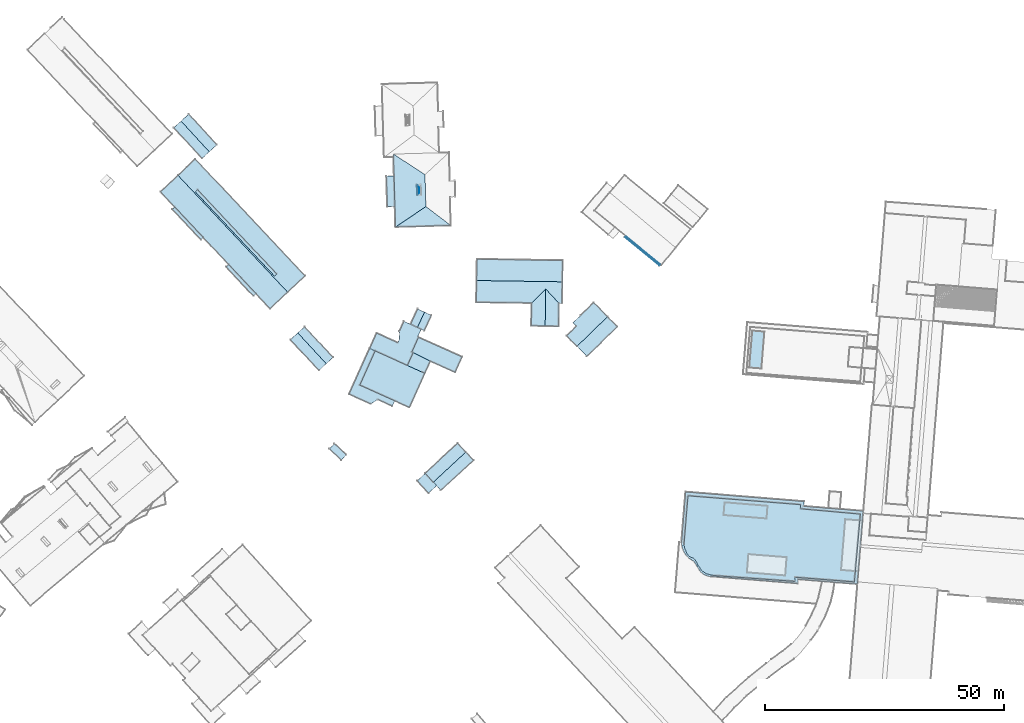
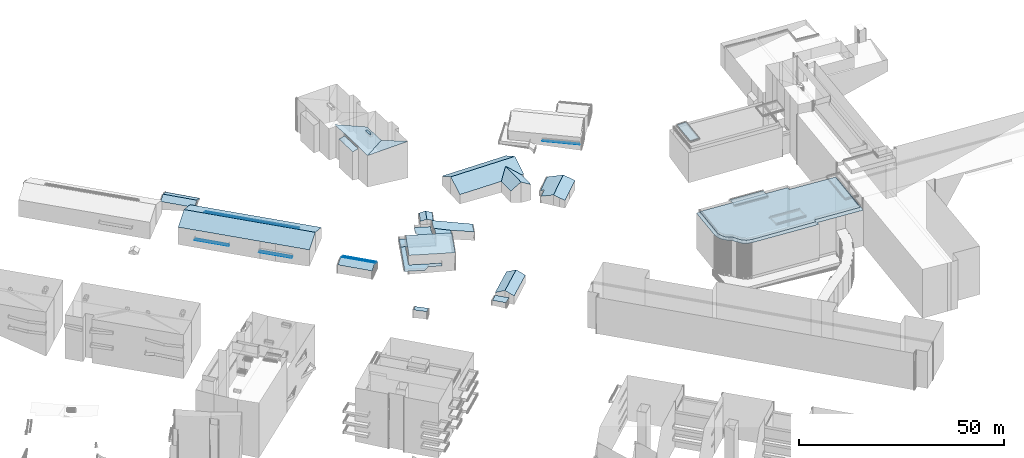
# Not in any storey, part 132 of 136: 68 roofs.
"""IFC2X3 building model written with IfcOpenShell, lengths in metres."""

import ifcopenshell
import ifcopenshell.guid

model = None  # the IFC model being written
_history = None  # IfcOwnerHistory: only IFC2X3 demands one
_inside = {}  # id of a spatial element -> (the spatial element, [elements in it])
_under = {}  # id of a project, library or spatial element -> (it, [spatial elements below it])
_declared = {}  # id of a project -> (the project, [libraries it declares])
_typed = {}  # id of a type object -> (the type object, [elements of that type])
_made_of = {}  # id of a material, layer set ... -> (it, [elements and type objects made of it])


def new_model(schema):
    """Start an empty IFC model of exactly this schema.

    Asked for "IFC4X3", IfcOpenShell would pick the latest addendum, in which some entities
    have other attributes; the version numbers below select the first issue.
    IFC2X3 requires an IfcOwnerHistory on every rooted entity: one is made here for all.
    """
    global model, _history
    if schema == "IFC4X3":
        model = ifcopenshell.file(schema_version=(4, 3, 0, 0))
    else:
        model = ifcopenshell.file(schema=schema)
    _inside.clear()
    _under.clear()
    _declared.clear()
    _typed.clear()
    _made_of.clear()
    _history = None
    if model.schema == "IFC2X3":
        org = make("IfcOrganization", Name="unknown")
        user = make(
            "IfcPersonAndOrganization",
            ThePerson=make("IfcPerson", FamilyName="unknown"),
            TheOrganization=org,
        )
        app = make(
            "IfcApplication",
            ApplicationDeveloper=org,
            Version="unknown",
            ApplicationFullName="unknown",
            ApplicationIdentifier="unknown",
        )
        _history = make(
            "IfcOwnerHistory",
            OwningUser=user,
            OwningApplication=app,
            ChangeAction="ADDED",
            CreationDate=0,
        )
    return model


def make(cls, **values):
    """One entity of the class cls with the attributes given. An attribute that is None is left unset."""
    return model.create_entity(
        cls, **{name: value for name, value in values.items() if value is not None}
    )


def entity(cls, *values):
    """Any entity or typed value of the class cls, its attributes in the order of the schema. None: left unset."""
    e = model.create_entity(cls)
    for i, value in enumerate(values):
        if value is not None:
            e[i] = value
    return e


def rooted(cls, **values):
    """An entity with a GlobalId (a new one), such as an element, a storey or a relation."""
    return make(cls, GlobalId=ifcopenshell.guid.new(), OwnerHistory=_history, **values)


def si_unit(unit_type, name, prefix=None):
    """IfcSIUnit, for example si_unit("LENGTHUNIT", "METRE", prefix="MILLI")."""
    return make("IfcSIUnit", UnitType=unit_type, Prefix=prefix, Name=name)


def converted_unit(unit_type, name, factor, base, dimensions=None, offset=None):
    """IfcConversionBasedUnit, such as the inch: factor (a typed value) times the base unit."""
    return make(
        "IfcConversionBasedUnit"
        if offset is None
        else "IfcConversionBasedUnitWithOffset",
        ConversionOffset=offset,
        Dimensions=None
        if dimensions is None
        else entity("IfcDimensionalExponents", *dimensions),
        UnitType=unit_type,
        Name=name,
        ConversionFactor=make(
            "IfcMeasureWithUnit", ValueComponent=factor, UnitComponent=base
        ),
    )


def assignment(units):
    """IfcUnitAssignment: the units of a project."""
    return None if units is None else make("IfcUnitAssignment", Units=units)


def point(xyz):
    """IfcCartesianPoint."""
    return None if xyz is None else make("IfcCartesianPoint", Coordinates=xyz)


def direction(xyz):
    """IfcDirection."""
    return None if xyz is None else make("IfcDirection", DirectionRatios=xyz)


def frame(location, z_axis=None, x_axis=None):
    """IfcAxis2Placement3D, a coordinate frame: its origin and axes. An axis left out is left unset."""
    return make(
        "IfcAxis2Placement3D",
        Location=point(location),
        Axis=direction(z_axis),
        RefDirection=direction(x_axis),
    )


def origin():
    """The frame at (0, 0, 0) with its axes left unset."""
    return frame((0.0, 0.0, 0.0))


def place(relative_to, where):
    """IfcLocalPlacement: puts the frame where relative to a parent placement (None: the world)."""
    return make(
        "IfcLocalPlacement", PlacementRelTo=relative_to, RelativePlacement=where
    )


def context(
    kind, dimensions, precision=None, world=None, true_north=None, identifier=None
):
    """IfcGeometricRepresentationContext, for example the 3D "Model" context."""
    return make(
        "IfcGeometricRepresentationContext",
        ContextIdentifier=identifier,
        ContextType=kind,
        CoordinateSpaceDimension=dimensions,
        Precision=precision,
        WorldCoordinateSystem=world,
        TrueNorth=true_north,
    )


def subcontext(parent, identifier, kind, view, scale=None):
    """IfcGeometricRepresentationSubContext, for example "Body" below "Model"."""
    return make(
        "IfcGeometricRepresentationSubContext",
        ContextIdentifier=identifier,
        ContextType=kind,
        ParentContext=parent,
        TargetScale=scale,
        TargetView=view,
    )


def project(units=None, contexts=None):
    """IfcProject with its units and contexts."""
    return rooted(
        "IfcProject",
        Name="project",
        RepresentationContexts=contexts,
        UnitsInContext=assignment(units),
    )


def spatial(cls, under=None, at=None, **own):
    """A site, building, storey or space (cls), placed at a placement, below another one or the project."""
    s = rooted(cls, ObjectPlacement=at, **own)
    if under is not None:
        _under.setdefault(under.id(), (under, []))[1].append(s)
    return s


def faces_of(points, faces, orient=None, outer=None):
    """IfcFace entities. A face is a list of loops; a loop is a list of indices into points, from 0.

    orient and outer hold one flag for each loop. By default every Orientation is true, the
    first loop of a face is its IfcFaceOuterBound and the others are IfcFaceBound.
    """
    made = []
    for i, loops in enumerate(faces):
        bounds = []
        for j, loop in enumerate(loops):
            is_outer = j == 0 if outer is None else outer[i][j]
            bounds.append(
                make(
                    "IfcFaceOuterBound" if is_outer else "IfcFaceBound",
                    Bound=make("IfcPolyLoop", Polygon=[points[k] for k in loop]),
                    Orientation=True if orient is None else orient[i][j],
                )
            )
        made.append(make("IfcFace", Bounds=bounds))
    return made


def face_set(faces, orient=None, outer=None):
    """The faces of one IfcConnectedFaceSet. surface_model builds it on its shared points."""
    return ("IfcConnectedFaceSet", faces, orient, outer)


def surface_model(cls, points, shells):
    """IfcFaceBasedSurfaceModel or IfcShellBasedSurfaceModel (cls): surfaces that need not close."""
    shared = [point(p) for p in points]
    made = [make(c, CfsFaces=faces_of(shared, fs, o, b)) for c, fs, o, b in shells]
    if cls == "IfcFaceBasedSurfaceModel":
        return make(cls, FbsmFaces=made)
    return make(cls, SbsmBoundary=made)


def shape(context_of_items, identifier, shape_type, items):
    """IfcShapeRepresentation: the items that make up one representation, for example the "Body"."""
    return make(
        "IfcShapeRepresentation",
        ContextOfItems=context_of_items,
        RepresentationIdentifier=identifier,
        RepresentationType=shape_type,
        Items=items,
    )


def made_of(thing, what):
    """Note that an element or type object is made of a material, layer set ...; save() writes the relation."""
    if what is not None:
        _made_of.setdefault(what.id(), (what, []))[1].append(thing)
    return thing


def element(
    cls,
    number,
    at=None,
    inside=None,
    cuts=None,
    type_object=None,
    material=None,
    context=None,
    identifier="Body",
    shape_type=None,
    held_by="IfcProductDefinitionShape",
    body=None,
    shapes=None,
    **own,
):
    """One element of the class cls, such as IfcWall. Its Tag is "e" and its number.

    at: its placement. inside: the storey or other place that contains it. cuts: it is an
    opening in that element (IfcRelVoidsElement). A single representation is given by context,
    identifier, shape_type and body (its items); several are given by shapes. held_by: the class
    of the entity that holds the representations. save() writes the other relations.
    """
    e = rooted(cls, Tag="e%d" % number, ObjectPlacement=at, **own)
    if body is not None:
        shapes = [shape(context, identifier, shape_type, body)]
    if shapes is not None:
        e.Representation = make(held_by, Representations=shapes)
    if inside is not None:
        _inside.setdefault(inside.id(), (inside, []))[1].append(e)
    if cuts is not None:
        rooted(
            "IfcRelVoidsElement", RelatingBuildingElement=cuts, RelatedOpeningElement=e
        )
    if type_object is not None:
        _typed.setdefault(type_object.id(), (type_object, []))[1].append(e)
    return made_of(e, material)


def aggregate(whole, parts):
    """IfcRelAggregates: a whole, such as a stair, and the parts it consists of."""
    return rooted("IfcRelAggregates", RelatingObject=whole, RelatedObjects=parts)


def save(model, path):
    """Write the relations noted so far, then the file.

    IfcRelAggregates (storeys below a building ...), IfcRelContainedInSpatialStructure (elements
    in a storey), IfcRelDefinesByType, IfcRelAssociatesMaterial and IfcRelDeclares: one each for
    every whole, place, type object, material and project.
    """
    for whole, parts in _under.values():
        aggregate(whole, parts)
    for where, things in _inside.values():
        rooted(
            "IfcRelContainedInSpatialStructure",
            RelatedElements=things,
            RelatingStructure=where,
        )
    for kind, things in _typed.values():
        rooted("IfcRelDefinesByType", RelatedObjects=things, RelatingType=kind)
    for what, things in _made_of.values():
        rooted("IfcRelAssociatesMaterial", RelatedObjects=things, RelatingMaterial=what)
    for by, libraries in _declared.values():
        rooted("IfcRelDeclares", RelatingContext=by, RelatedDefinitions=libraries)
    model.write(path)


model = new_model("IFC2X3")

# Units and contexts
model_context = context("Model", 3, precision=1e-05, world=origin())
body_context = subcontext(model_context, "Body", "Model", "MODEL_VIEW")
ifc_project = project(units=[converted_unit("PLANEANGLEUNIT", "DEGREE", entity("IfcRatioMeasure", 0.0174532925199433), si_unit("PLANEANGLEUNIT", "RADIAN"), dimensions=[0, 0, 0, 0, 0, 0, 0]), si_unit("AREAUNIT", "SQUARE_METRE"), si_unit("LENGTHUNIT", "METRE")], contexts=[model_context])

# Site, building
site_placement = place(None, origin())
site = spatial("IfcSite", under=ifc_project, at=site_placement, Name="_site", CompositionType="ELEMENT")
building_1_placement = place(site_placement, origin())
building_1 = spatial("IfcBuilding", under=site, at=building_1_placement, Name="_building", CompositionType="ELEMENT")

# Roofs
for number, where, name in (
    (1, (0.0, 0.0, 0.0), "Roof"),
    (2, (0.0, 0.0, 0.0), "Roof"),
):
    element("IfcRoof", number, at=place(building_1_placement, frame(where)), inside=building_1, Name=name, ShapeType="NOTDEFINED", context=body_context, shape_type="SurfaceModel", body=[
        surface_model("IfcFaceBasedSurfaceModel", [(119.99, 104.46, 45.55), (121.43, 103.79, 45.01), (122.92, 107.0, 45.01), (121.48, 107.67, 45.55)], [face_set([[[0, 1, 2, 3]]])]),
    ])
for number, where, name in (
    (3, (0.0, 0.0, 0.0), "Roof"),
    (4, (0.0, 0.0, 0.0), "Roof"),
):
    element("IfcRoof", number, at=place(building_1_placement, frame(where)), inside=building_1, Name=name, ShapeType="NOTDEFINED", context=body_context, shape_type="SurfaceModel", body=[
        surface_model("IfcFaceBasedSurfaceModel", [(121.48, 107.67, 45.55), (120.06, 108.33, 45.01), (118.57, 105.12, 45.01), (119.99, 104.46, 45.55)], [face_set([[[0, 1, 2, 3]]])]),
    ])

# Building
building_2_placement = place(site_placement, origin())
building_2 = spatial("IfcBuilding", under=site, at=building_2_placement, Name="_building", CompositionType="ELEMENT")

# Roofs
for number, where, name in (
    (5, (0.0, 0.0, 0.0), "Roof"),
    (6, (0.0, 0.0, 0.0), "Roof"),
):
    element("IfcRoof", number, at=place(building_2_placement, frame(where)), inside=building_2, Name=name, ShapeType="NOTDEFINED", context=body_context, shape_type="SurfaceModel", body=[
        surface_model("IfcFaceBasedSurfaceModel", [(101.63, 79.12, 40.36), (104.11, 76.79, 40.36), (105.14, 77.88, 40.36), (102.67, 80.22, 40.36)], [face_set([[[0, 1, 2, 3]]])]),
    ])

# Building
building_3_placement = place(site_placement, origin())
building_3 = spatial("IfcBuilding", under=site, at=building_3_placement, Name="_building", CompositionType="ELEMENT")

# Roofs
roof_1_placement = place(building_3_placement, origin())
element("IfcRoof", 7, at=roof_1_placement, inside=building_3, Name="Roof", ShapeType="NOTDEFINED", context=body_context, shape_type="SurfaceModel", body=[
    surface_model("IfcFaceBasedSurfaceModel", [(115.42, 125.43, 53.37), (126.98, 125.76, 53.37), (121.77, 129.72, 53.1)], [face_set([[[0, 1, 2]]])]),
])
roof_2_placement = place(building_3_placement, origin())
element("IfcRoof", 8, at=roof_2_placement, inside=building_3, Name="Roof", ShapeType="NOTDEFINED", context=body_context, shape_type="SurfaceModel", body=[
    surface_model("IfcFaceBasedSurfaceModel", [(121.58, 136.39, 53.1), (114.99, 140.68, 53.5), (115.0, 140.07, 53.5), (115.12, 136.14, 53.46), (115.3, 129.75, 53.41), (115.42, 125.43, 53.37), (121.77, 129.72, 53.1)], [face_set([[[0, 1, 2, 3, 4, 5, 6]]])]),
])
roof_3_placement = place(building_3_placement, origin())
element("IfcRoof", 9, at=roof_3_placement, inside=building_3, Name="Roof", ShapeType="NOTDEFINED", context=body_context, shape_type="SurfaceModel", body=[
    surface_model("IfcFaceBasedSurfaceModel", [(115.3, 129.75, 52.85), (115.12, 136.14, 52.85), (113.53, 136.09, 52.47), (113.71, 129.71, 52.47)], [face_set([[[0, 1, 2, 3]]])]),
])
roof_4_placement = place(building_3_placement, origin())
element("IfcRoof", 10, at=roof_4_placement, inside=building_3, Name="Roof", ShapeType="NOTDEFINED", context=body_context, shape_type="SurfaceModel", body=[
    surface_model("IfcFaceBasedSurfaceModel", [(121.58, 136.39, 53.1), (114.99, 140.68, 53.5), (115.0, 140.07, 53.5), (115.12, 136.14, 53.46), (115.3, 129.75, 53.41), (115.42, 125.43, 53.37), (121.77, 129.72, 53.1)], [face_set([[[0, 1, 2, 3, 4, 5, 6]]])]),
])
for number, where, name in (
    (11, (0.0, 0.0, 0.0), "Roof"),
    (12, (0.0, 0.0, 0.0), "Roof"),
):
    element("IfcRoof", number, at=place(building_3_placement, frame(where)), inside=building_3, Name=name, ShapeType="NOTDEFINED", context=body_context, shape_type="SurfaceModel", body=[
        surface_model("IfcFaceBasedSurfaceModel", [(119.89, 134.271, 53.87), (119.96, 132.05, 53.87), (120.37, 132.41, 54.14), (120.32, 134.01, 54.14)], [face_set([[[0, 1, 2, 3]]])]),
    ])
roof_5_placement = place(building_3_placement, origin())
element("IfcRoof", 13, at=roof_5_placement, inside=building_3, Name="Roof", ShapeType="NOTDEFINED", context=body_context, shape_type="SurfaceModel", body=[
    surface_model("IfcFaceBasedSurfaceModel", [(115.3, 129.75, 52.85), (115.12, 136.14, 52.85), (113.53, 136.09, 52.47), (113.71, 129.71, 52.47)], [face_set([[[0, 1, 2, 3]]])]),
])
roof_6_placement = place(building_3_placement, origin())
element("IfcRoof", 14, at=roof_6_placement, inside=building_3, Name="Roof", ShapeType="NOTDEFINED", context=body_context, shape_type="SurfaceModel", body=[
    surface_model("IfcFaceBasedSurfaceModel", [(115.42, 125.43, 53.37), (126.98, 125.76, 53.37), (121.77, 129.72, 53.1)], [face_set([[[0, 1, 2]]])]),
])

# Building
building_4_placement = place(site_placement, origin())
building_4 = spatial("IfcBuilding", under=site, at=building_4_placement, Name="_building", CompositionType="ELEMENT")

# Roofs
for number, where, name in (
    (15, (0.0, 0.0, 0.0), "Roof"),
    (16, (0.0, 0.0, 0.0), "Roof"),
):
    element("IfcRoof", number, at=place(building_4_placement, frame(where)), inside=building_4, Name=name, ShapeType="NOTDEFINED", context=body_context, shape_type="SurfaceModel", body=[
        surface_model("IfcFaceBasedSurfaceModel", [(170.69, 117.64, 42.22), (163.5, 123.53, 42.22), (163.3, 123.28, 42.22), (170.49, 117.39, 42.22)], [face_set([[[0, 1, 2, 3]]])]),
    ])

# Building
building_5_placement = place(site_placement, origin())
building_5 = spatial("IfcBuilding", under=site, at=building_5_placement, Name="_building", CompositionType="ELEMENT")

# Roofs
for number, where, name in (
    (17, (0.0, 0.0, 0.0), "Roof"),
    (18, (0.0, 0.0, 0.0), "Roof"),
):
    element("IfcRoof", number, at=place(building_5_placement, frame(where)), inside=building_5, Name=name, ShapeType="NOTDEFINED", context=body_context, shape_type="SurfaceModel", body=[
        surface_model("IfcFaceBasedSurfaceModel", [(130.11, 78.46, 42.75), (128.41, 80.3, 41.61), (121.62, 74.0, 41.61), (123.32, 72.17, 42.75)], [face_set([[[0, 1, 2, 3]]])]),
    ])
for number, where, name in (
    (19, (0.0, 0.0, 0.0), "Roof"),
    (20, (0.0, 0.0, 0.0), "Roof"),
):
    element("IfcRoof", number, at=place(building_5_placement, frame(where)), inside=building_5, Name=name, ShapeType="NOTDEFINED", context=body_context, shape_type="SurfaceModel", body=[
        surface_model("IfcFaceBasedSurfaceModel", [(123.32, 72.17, 42.75), (124.01, 71.43, 42.26), (124.91, 70.45, 41.61), (131.71, 76.74, 41.61), (130.11, 78.46, 42.75)], [face_set([[[0, 1, 2, 3, 4]]])]),
    ])
for number, where, name in (
    (21, (0.0, 0.0, 0.0), "Roof"),
    (22, (0.0, 0.0, 0.0), "Roof"),
):
    element("IfcRoof", number, at=place(building_5_placement, frame(where)), inside=building_5, Name=name, ShapeType="NOTDEFINED", context=body_context, shape_type="SurfaceModel", body=[
        surface_model("IfcFaceBasedSurfaceModel", [(124.01, 71.43, 40.82), (123.32, 72.17, 40.82), (121.62, 74.0, 40.82), (119.97, 72.47, 40.82), (122.35, 69.89, 40.82)], [face_set([[[0, 1, 2, 3, 4]]])]),
    ])

# Building
building_6_placement = place(site_placement, origin())
building_6 = spatial("IfcBuilding", under=site, at=building_6_placement, Name="_building", CompositionType="ELEMENT")

# Roofs
roof_7_placement = place(building_6_placement, origin())
element("IfcRoof", 23, at=roof_7_placement, inside=building_6, Name="Roof", ShapeType="NOTDEFINED", context=body_context, shape_type="SurfaceModel", body=[
    surface_model("IfcFaceBasedSurfaceModel", [(117.9, 96.53, 46.36), (121.54, 94.89, 45.57), (122.68, 97.43, 45.56), (119.11, 99.22, 46.31)], [face_set([[[0, 1, 2, 3]]])]),
])
roof_8_placement = place(building_6_placement, origin())
element("IfcRoof", 24, at=roof_8_placement, inside=building_6, Name="Roof", ShapeType="NOTDEFINED", context=body_context, shape_type="SurfaceModel", body=[
    surface_model("IfcFaceBasedSurfaceModel", [(107.97, 92.43, 43.45), (111.18, 99.561, 43.45), (110.03, 100.08, 43.45), (105.72, 90.54, 43.45), (110.26, 88.5, 43.45), (111.71, 89.42, 43.45), (114.75, 88.05, 43.45), (115.25, 89.15, 43.45)], [face_set([[[0, 1, 2, 3, 4, 5, 6, 7]]])]),
])
for number, where, name in (
    (25, (0.0, 0.0, 0.0), "Roof"),
    (26, (0.0, 0.0, 0.0), "Roof"),
):
    element("IfcRoof", number, at=place(building_6_placement, frame(where)), inside=building_6, Name=name, ShapeType="NOTDEFINED", context=body_context, shape_type="SurfaceModel", body=[
        surface_model("IfcFaceBasedSurfaceModel", [(121.54, 94.89, 46.77), (117.9, 96.53, 46.77), (111.18, 99.561, 46.77), (107.97, 92.43, 46.3), (118.32, 87.76, 46.3)], [face_set([[[0, 1, 2, 3, 4]]])]),
    ])
for number, where, name in (
    (27, (0.0, 0.0, 0.0), "Roof"),
    (28, (0.0, 0.0, 0.0), "Roof"),
):
    element("IfcRoof", number, at=place(building_6_placement, frame(where)), inside=building_6, Name=name, ShapeType="NOTDEFINED", context=body_context, shape_type="SurfaceModel", body=[
        surface_model("IfcFaceBasedSurfaceModel", [(117.9, 96.53, 43.29), (119.11, 99.22, 43.29), (118.84, 99.34, 43.29), (120.22, 102.41, 43.29), (120.05, 102.49, 43.29), (120.78, 104.09, 43.29), (118.57, 105.12, 43.29), (117.18, 105.75, 43.29), (116.23, 103.64, 43.29), (116.26, 103.19, 43.29), (116.24, 102.03, 43.29), (115.9, 101.28, 43.29), (111.47, 103.28, 43.29), (110.03, 100.08, 43.29), (111.18, 99.561, 43.29)], [face_set([[[0, 1, 2, 3, 4, 5, 6, 7, 8, 9, 10, 11, 12, 13, 14]]])]),
    ])
roof_9_placement = place(building_6_placement, origin())
element("IfcRoof", 29, at=roof_9_placement, inside=building_6, Name="Roof", ShapeType="NOTDEFINED", context=body_context, shape_type="SurfaceModel", body=[
    surface_model("IfcFaceBasedSurfaceModel", [(117.9, 96.53, 46.36), (121.54, 94.89, 45.57), (122.68, 97.43, 45.56), (119.11, 99.22, 46.31)], [face_set([[[0, 1, 2, 3]]])]),
])
roof_10_placement = place(building_6_placement, origin())
element("IfcRoof", 30, at=roof_10_placement, inside=building_6, Name="Roof", ShapeType="NOTDEFINED", context=body_context, shape_type="SurfaceModel", body=[
    surface_model("IfcFaceBasedSurfaceModel", [(107.97, 92.43, 43.45), (111.18, 99.561, 43.45), (110.03, 100.08, 43.45), (105.72, 90.54, 43.45), (110.26, 88.5, 43.45), (111.71, 89.42, 43.45), (114.75, 88.05, 43.45), (115.25, 89.15, 43.45)], [face_set([[[0, 1, 2, 3, 4, 5, 6, 7]]])]),
])

# Building
building_7_placement = place(site_placement, origin())
building_7 = spatial("IfcBuilding", under=site, at=building_7_placement, Name="_building", CompositionType="ELEMENT")

# Roofs
roof_11_placement = place(building_7_placement, origin())
element("IfcRoof", 31, at=roof_11_placement, inside=building_7, Name="Roof", ShapeType="NOTDEFINED", context=body_context, shape_type="SurfaceModel", body=[
    surface_model("IfcFaceBasedSurfaceModel", [(74.12, 133.24, 46.56), (73.64, 132.78, 46.55), (90.14, 115.2, 46.55), (90.63, 115.65, 46.56)], [face_set([[[0, 1, 2, 3]]])]),
])
roof_12_placement = place(building_7_placement, origin())
element("IfcRoof", 32, at=roof_12_placement, inside=building_7, Name="Roof", ShapeType="NOTDEFINED", context=body_context, shape_type="SurfaceModel", body=[
    surface_model("IfcFaceBasedSurfaceModel", [(80.59, 117.64, 41.99), (80.06, 117.14, 41.99), (85.77, 111.05, 41.99), (86.3, 111.55, 41.99)], [face_set([[[0, 1, 2, 3]]])]),
])
roof_13_placement = place(building_7_placement, origin())
element("IfcRoof", 33, at=roof_13_placement, inside=building_7, Name="Roof", ShapeType="NOTDEFINED", context=body_context, shape_type="SurfaceModel", body=[
    surface_model("IfcFaceBasedSurfaceModel", [(70.01, 136.22, 46.66), (66.36, 132.8, 44.78), (80.59, 117.64, 44.78), (83.34, 114.71, 44.78), (89.24, 108.43, 44.78), (92.88, 111.851, 46.66)], [face_set([[[0, 1, 2, 3, 4, 5]]])]),
])
roof_14_placement = place(building_7_placement, origin())
element("IfcRoof", 34, at=roof_14_placement, inside=building_7, Name="Roof", ShapeType="NOTDEFINED", context=body_context, shape_type="SurfaceModel", body=[
    surface_model("IfcFaceBasedSurfaceModel", [(69.33, 129.64, 42.25), (68.85, 129.19, 42.25), (74.81, 122.83, 42.25), (75.3, 123.28, 42.25)], [face_set([[[0, 1, 2, 3]]])]),
])
roof_15_placement = place(building_7_placement, origin())
element("IfcRoof", 35, at=roof_15_placement, inside=building_7, Name="Roof", ShapeType="NOTDEFINED", context=body_context, shape_type="SurfaceModel", body=[
    surface_model("IfcFaceBasedSurfaceModel", [(80.59, 117.64, 41.99), (80.06, 117.14, 41.99), (85.77, 111.05, 41.99), (86.3, 111.55, 41.99)], [face_set([[[0, 1, 2, 3]]])]),
])
roof_16_placement = place(building_7_placement, origin())
element("IfcRoof", 36, at=roof_16_placement, inside=building_7, Name="Roof", ShapeType="NOTDEFINED", context=body_context, shape_type="SurfaceModel", body=[
    surface_model("IfcFaceBasedSurfaceModel", [(69.33, 129.64, 42.25), (68.85, 129.19, 42.25), (74.81, 122.83, 42.25), (75.3, 123.28, 42.25)], [face_set([[[0, 1, 2, 3]]])]),
])
roof_17_placement = place(building_7_placement, origin())
element("IfcRoof", 37, at=roof_17_placement, inside=building_7, Name="Roof", ShapeType="NOTDEFINED", context=body_context, shape_type="SurfaceModel", body=[
    surface_model("IfcFaceBasedSurfaceModel", [(92.88, 111.851, 46.66), (96.52, 115.26, 44.78), (73.64, 139.64, 44.78), (70.01, 136.22, 46.66)], [face_set([[[0, 1, 2, 3]]])]),
])
roof_18_placement = place(building_7_placement, origin())
element("IfcRoof", 38, at=roof_18_placement, inside=building_7, Name="Roof", ShapeType="NOTDEFINED", context=body_context, shape_type="SurfaceModel", body=[
    surface_model("IfcFaceBasedSurfaceModel", [(70.01, 136.22, 46.66), (66.36, 132.8, 44.78), (80.59, 117.64, 44.78), (83.34, 114.71, 44.78), (89.24, 108.43, 44.78), (92.88, 111.851, 46.66)], [face_set([[[0, 1, 2, 3, 4, 5]]])]),
])
roof_19_placement = place(building_7_placement, origin())
element("IfcRoof", 39, at=roof_19_placement, inside=building_7, Name="Roof", ShapeType="NOTDEFINED", context=body_context, shape_type="SurfaceModel", body=[
    surface_model("IfcFaceBasedSurfaceModel", [(74.12, 133.24, 46.56), (73.64, 132.78, 46.55), (90.14, 115.2, 46.55), (90.63, 115.65, 46.56)], [face_set([[[0, 1, 2, 3]]])]),
])
roof_20_placement = place(building_7_placement, origin())
element("IfcRoof", 40, at=roof_20_placement, inside=building_7, Name="Roof", ShapeType="NOTDEFINED", context=body_context, shape_type="SurfaceModel", body=[
    surface_model("IfcFaceBasedSurfaceModel", [(92.88, 111.851, 46.66), (96.52, 115.26, 44.78), (73.64, 139.64, 44.78), (70.01, 136.22, 46.66)], [face_set([[[0, 1, 2, 3]]])]),
])

# Building
building_8_placement = place(site_placement, origin())
building_8 = spatial("IfcBuilding", under=site, at=building_8_placement, Name="_building", CompositionType="ELEMENT")

# Roofs
for number, where, name in (
    (41, (0.0, 0.0, 0.0), "Roof"),
    (42, (0.0, 0.0, 0.0), "Roof"),
):
    element("IfcRoof", number, at=place(building_8_placement, frame(where)), inside=building_8, Name=name, ShapeType="NOTDEFINED", context=body_context, shape_type="SurfaceModel", body=[
        surface_model("IfcFaceBasedSurfaceModel", [(153.33, 100.54, 43.45), (154.44, 99.4, 42.87), (155.39, 98.42, 42.37), (158.33, 101.28, 42.37), (161.76, 104.62, 42.37), (159.7, 106.73, 43.45)], [face_set([[[0, 1, 2, 3, 4, 5]]])]),
    ])
for number, where, name in (
    (43, (0.0, 0.0, 0.0), "Roof"),
    (44, (0.0, 0.0, 0.0), "Roof"),
):
    element("IfcRoof", number, at=place(building_8_placement, frame(where)), inside=building_8, Name=name, ShapeType="NOTDEFINED", context=body_context, shape_type="SurfaceModel", body=[
        surface_model("IfcFaceBasedSurfaceModel", [(159.7, 106.73, 43.45), (156.84, 109.67, 42.08), (154.12, 107.03, 42.08), (152.48, 105.43, 42.08), (153.19, 104.7, 42.5), (151.18, 102.75, 42.5), (153.33, 100.54, 43.45)], [face_set([[[0, 1, 2, 3, 4, 5, 6]]])]),
    ])

# Building
building_9_placement = place(site_placement, origin())
building_9 = spatial("IfcBuilding", under=site, at=building_9_placement, Name="_building", CompositionType="ELEMENT")

# Roofs
for number, where, name in (
    (45, (0.0, 0.0, 0.0), "Roof"),
    (46, (0.0, 0.0, 0.0), "Roof"),
):
    element("IfcRoof", number, at=place(building_9_placement, frame(where)), inside=building_9, Name=name, ShapeType="NOTDEFINED", context=body_context, shape_type="SurfaceModel", body=[
        surface_model("IfcFaceBasedSurfaceModel", [(100.96, 96.9, 43.57), (102.38, 98.22, 42.77), (96.43, 104.65, 42.77), (95.01, 103.34, 43.57)], [face_set([[[0, 1, 2, 3]]])]),
    ])
for number, where, name in (
    (47, (0.0, 0.0, 0.0), "Roof"),
    (48, (0.0, 0.0, 0.0), "Roof"),
):
    element("IfcRoof", number, at=place(building_9_placement, frame(where)), inside=building_9, Name=name, ShapeType="NOTDEFINED", context=body_context, shape_type="SurfaceModel", body=[
        surface_model("IfcFaceBasedSurfaceModel", [(95.01, 103.34, 43.57), (93.5, 101.94, 42.77), (99.45, 95.51, 42.77), (100.96, 96.9, 43.57)], [face_set([[[0, 1, 2, 3]]])]),
    ])

# Building
building_10_placement = place(site_placement, origin())
building_10 = spatial("IfcBuilding", under=site, at=building_10_placement, Name="_building", CompositionType="ELEMENT")

# Roofs
roof_21_placement = place(building_10_placement, origin())
element("IfcRoof", 49, at=roof_21_placement, inside=building_10, Name="Roof", ShapeType="NOTDEFINED", context=body_context, shape_type="SurfaceModel", body=[
    surface_model("IfcFaceBasedSurfaceModel", [(70.64, 147.57, 44.16), (69.16, 146.21, 43.3), (75.04, 139.79, 43.3), (76.53, 141.15, 44.16)], [face_set([[[0, 1, 2, 3]]])]),
])
for number, where, name in (
    (50, (0.0, 0.0, 0.0), "Roof"),
    (51, (0.0, 0.0, 0.0), "Roof"),
):
    element("IfcRoof", number, at=place(building_10_placement, frame(where)), inside=building_10, Name=name, ShapeType="NOTDEFINED", context=body_context, shape_type="SurfaceModel", body=[
        surface_model("IfcFaceBasedSurfaceModel", [(76.53, 141.15, 44.16), (78.13, 142.62, 43.3), (72.25, 149.04, 43.3), (70.64, 147.57, 44.16)], [face_set([[[0, 1, 2, 3]]])]),
    ])
roof_22_placement = place(building_10_placement, origin())
element("IfcRoof", 52, at=roof_22_placement, inside=building_10, Name="Roof", ShapeType="NOTDEFINED", context=body_context, shape_type="SurfaceModel", body=[
    surface_model("IfcFaceBasedSurfaceModel", [(70.64, 147.57, 44.16), (69.16, 146.21, 43.3), (75.04, 139.79, 43.3), (76.53, 141.15, 44.16)], [face_set([[[0, 1, 2, 3]]])]),
])

# Building
building_11_placement = place(site_placement, origin())
building_11 = spatial("IfcBuilding", under=site, at=building_11_placement, Name="_building", CompositionType="ELEMENT")

# Roofs
for number, where, name in (
    (53, (0.0, 0.0, 0.0), "Roof"),
    (54, (0.0, 0.0, 0.0), "Roof"),
):
    element("IfcRoof", number, at=place(building_11_placement, frame(where)), inside=building_11, Name=name, ShapeType="NOTDEFINED", context=body_context, shape_type="SurfaceModel", body=[
        surface_model("IfcFaceBasedSurfaceModel", [(146.67, 104.75, 47.07), (149.48, 104.71, 45.35), (149.55, 109.53, 45.35), (146.78, 112.51, 47.07)], [face_set([[[0, 1, 2, 3]]])]),
    ])
roof_23_placement = place(building_11_placement, origin())
element("IfcRoof", 55, at=roof_23_placement, inside=building_11, Name="Roof", ShapeType="NOTDEFINED", context=body_context, shape_type="SurfaceModel", body=[
    surface_model("IfcFaceBasedSurfaceModel", [(146.78, 112.51, 47.07), (149.55, 109.53, 45.35), (150.19, 109.521, 45.35), (150.26, 114.0, 47.87), (132.37, 114.271, 47.87), (132.3, 109.73, 45.35), (143.87, 109.55, 45.35)], [face_set([[[0, 1, 2, 3, 4, 5, 6]]])]),
])
roof_24_placement = place(building_11_placement, origin())
element("IfcRoof", 56, at=roof_24_placement, inside=building_11, Name="Roof", ShapeType="NOTDEFINED", context=body_context, shape_type="SurfaceModel", body=[
    surface_model("IfcFaceBasedSurfaceModel", [(143.87, 109.55, 45.35), (143.79, 104.8, 45.35), (146.67, 104.75, 47.07), (146.78, 112.51, 47.07)], [face_set([[[0, 1, 2, 3]]])]),
])
roof_25_placement = place(building_11_placement, origin())
element("IfcRoof", 57, at=roof_25_placement, inside=building_11, Name="Roof", ShapeType="NOTDEFINED", context=body_context, shape_type="SurfaceModel", body=[
    surface_model("IfcFaceBasedSurfaceModel", [(146.78, 112.51, 47.07), (149.55, 109.53, 45.35), (150.19, 109.521, 45.35), (150.26, 114.0, 47.87), (132.37, 114.271, 47.87), (132.3, 109.73, 45.35), (143.87, 109.55, 45.35)], [face_set([[[0, 1, 2, 3, 4, 5, 6]]])]),
])
for number, where, name in (
    (58, (0.0, 0.0, 0.0), "Roof"),
    (59, (0.0, 0.0, 0.0), "Roof"),
):
    element("IfcRoof", number, at=place(building_11_placement, frame(where)), inside=building_11, Name=name, ShapeType="NOTDEFINED", context=body_context, shape_type="SurfaceModel", body=[
        surface_model("IfcFaceBasedSurfaceModel", [(150.26, 114.0, 47.87), (150.32, 118.46, 45.35), (132.44, 118.73, 45.35), (132.37, 114.271, 47.87)], [face_set([[[0, 1, 2, 3]]])]),
    ])
roof_26_placement = place(building_11_placement, origin())
element("IfcRoof", 60, at=roof_26_placement, inside=building_11, Name="Roof", ShapeType="NOTDEFINED", context=body_context, shape_type="SurfaceModel", body=[
    surface_model("IfcFaceBasedSurfaceModel", [(143.87, 109.55, 45.35), (143.79, 104.8, 45.35), (146.67, 104.75, 47.07), (146.78, 112.51, 47.07)], [face_set([[[0, 1, 2, 3]]])]),
])

# Building
building_12_placement = place(site_placement, origin())
building_12 = spatial("IfcBuilding", under=site, at=building_12_placement, Name="_building", CompositionType="ELEMENT")

# Roofs
for number, where, name in (
    (61, (0.0, 0.0, 0.0), "Roof"),
    (62, (0.0, 0.0, 0.0), "Roof"),
):
    element("IfcRoof", number, at=place(building_12_placement, frame(where)), inside=building_12, Name=name, ShapeType="NOTDEFINED", context=body_context, shape_type="SurfaceModel", body=[
        surface_model("IfcFaceBasedSurfaceModel", [(119.11, 99.22, 46.31), (122.68, 97.43, 45.56), (127.87, 95.09, 44.71), (129.32, 98.311, 44.58), (120.22, 102.41, 46.36), (118.84, 99.34, 46.36)], [face_set([[[0, 1, 2, 3, 4, 5]]])]),
    ])

# Building
building_13_placement = place(site_placement, origin())
building_13 = spatial("IfcBuilding", under=site, at=building_13_placement, Name="_building", CompositionType="ELEMENT")

# Roofs
for number, where, name in (
    (63, (0.0, 0.0, 0.0), "Roof"),
    (64, (0.0, 0.0, 0.0), "Roof"),
):
    element("IfcRoof", number, at=place(building_13_placement, frame(where)), inside=building_13, Name=name, ShapeType="NOTDEFINED", context=body_context, shape_type="SurfaceModel", body=[
        surface_model("IfcFaceBasedSurfaceModel", [(204.54, 51.45, 48.6), (207.13, 51.24, 48.6), (211.89, 50.86, 48.6), (211.93, 51.34, 48.6), (212.511, 58.53, 48.6), (212.56, 59.12, 48.6), (213.09, 65.66, 48.6), (213.13, 66.13, 48.6), (208.25, 66.53, 48.6), (205.82, 66.72, 48.6), (200.69, 67.14, 48.6), (200.77, 68.13, 48.6), (176.0, 70.13, 48.6), (175.15, 59.601, 48.6), (175.17, 59.23, 48.6), (175.22, 58.86, 48.6), (175.31, 58.5, 48.6), (175.42, 58.14, 48.6), (175.57, 57.8, 48.6), (175.74, 57.46, 48.6), (175.94, 57.15, 48.6), (176.17, 56.851, 48.6), (176.42, 56.58, 48.6), (176.7, 56.32, 48.6), (177.0, 56.09, 48.6), (177.31, 55.89, 48.6), (177.64, 55.72, 48.6), (177.7, 55.69, 48.6), (178.51, 54.45, 48.6), (178.64, 54.16, 48.6), (178.81, 53.88, 48.6), (179.0, 53.62, 48.6), (179.21, 53.39, 48.6), (179.45, 53.17, 48.6), (179.7, 52.98, 48.6), (179.98, 52.82, 48.6), (180.27, 52.68, 48.6), (180.57, 52.58, 48.6), (180.88, 52.5, 48.6), (181.2, 52.46, 48.6), (181.37, 52.45, 48.6), (199.41, 50.99, 48.6), (199.48, 51.86, 48.6)], [face_set([[[0, 1, 2, 3, 4, 5, 6, 7, 8, 9, 10, 11, 12, 13, 14, 15, 16, 17, 18, 19, 20, 21, 22, 23, 24, 25, 26, 27, 28, 29, 30, 31, 32, 33, 34, 35, 36, 37, 38, 39, 40, 41, 42]]])]),
    ])
roof_27_placement = place(building_13_placement, origin())
element("IfcRoof", 65, at=roof_27_placement, inside=building_13, Name="Roof", ShapeType="NOTDEFINED", context=body_context, shape_type="SurfaceModel", body=[
    surface_model("IfcFaceBasedSurfaceModel", [(183.95, 65.26, 51.06), (192.93, 64.53, 51.06), (193.14, 67.18, 51.06), (184.17, 67.91, 51.06)], [face_set([[[0, 1, 2, 3]]])]),
])
roof_28_placement = place(building_13_placement, origin())
element("IfcRoof", 66, at=roof_28_placement, inside=building_13, Name="Roof", ShapeType="NOTDEFINED", context=body_context, shape_type="SurfaceModel", body=[
    surface_model("IfcFaceBasedSurfaceModel", [(176.5, 69.32, 49.344), (175.67, 59.23, 49.344), (175.77, 58.44, 49.344), (176.25, 57.351, 49.344), (176.63, 56.74, 49.344), (177.11, 56.51, 49.344), (177.56, 56.32, 49.344), (177.88, 56.09, 49.344), (178.14, 55.71, 49.344), (178.7, 54.69, 49.344), (179.34, 53.71, 49.344), (180.29, 53.05, 49.344), (181.87, 52.67, 49.344), (198.79, 51.45, 49.344), (198.9, 52.311, 49.344), (211.25, 51.34, 49.344), (212.49, 65.49, 49.344), (200.04, 66.601, 49.344), (200.04, 67.47, 49.344)], [face_set([[[0, 1, 2, 3, 4, 5, 6, 7, 8, 9, 10, 11, 12, 13, 14, 15, 16, 17, 18]]])]),
])
roof_29_placement = place(building_13_placement, origin())
element("IfcRoof", 67, at=roof_29_placement, inside=building_13, Name="Roof", ShapeType="NOTDEFINED", context=body_context, shape_type="SurfaceModel", body=[
    surface_model("IfcFaceBasedSurfaceModel", [(192.48, 103.57, 49.68), (189.95, 103.78, 49.55), (189.31, 96.061, 49.55), (191.85, 95.86, 49.68)], [face_set([[[0, 1, 2, 3]]])]),
])
roof_30_placement = place(building_13_placement, origin())
element("IfcRoof", 68, at=roof_30_placement, inside=building_13, Name="Roof", ShapeType="NOTDEFINED", context=body_context, shape_type="SurfaceModel", body=[
    surface_model("IfcFaceBasedSurfaceModel", [(176.5, 69.32, 49.344), (175.67, 59.23, 49.344), (175.77, 58.44, 49.344), (176.25, 57.351, 49.344), (176.63, 56.74, 49.344), (177.11, 56.51, 49.344), (177.56, 56.32, 49.344), (177.88, 56.09, 49.344), (178.14, 55.71, 49.344), (178.7, 54.69, 49.344), (179.34, 53.71, 49.344), (180.29, 53.05, 49.344), (181.87, 52.67, 49.344), (198.79, 51.45, 49.344), (198.9, 52.311, 49.344), (211.25, 51.34, 49.344), (212.49, 65.49, 49.344), (200.04, 66.601, 49.344), (200.04, 67.47, 49.344)], [face_set([[[0, 1, 2, 3, 4, 5, 6, 7, 8, 9, 10, 11, 12, 13, 14, 15, 16, 17, 18]]])]),
])

save(model, "model.ifc")
